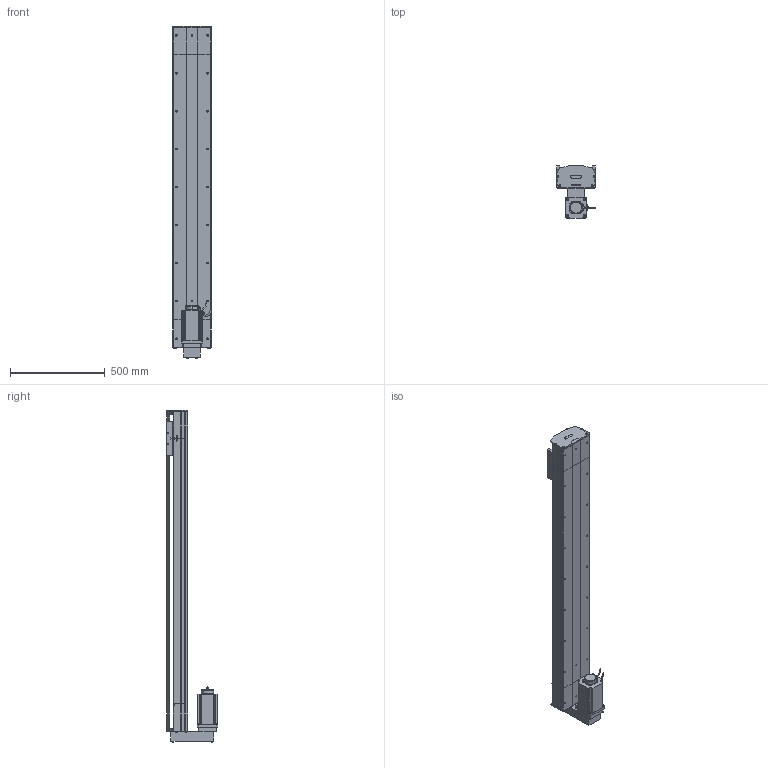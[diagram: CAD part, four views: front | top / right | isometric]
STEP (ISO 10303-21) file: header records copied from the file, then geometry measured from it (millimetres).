
FILE_DESCRIPTION (( 'STEP AP214' ), '1' );
FILE_NAME ('D20 TSH BM S1400.STEP', '2010-06-30T08:45:49', ( 'Conseil Régional Haute-Normandie' ), ( 'Conseil Régional Haute-Normandie' ), 'SwSTEP 2.0', 'SolidWorks 2010', '' );
FILE_SCHEMA (( 'AUTOMOTIVE_DESIGN' ));
Length unit declared in the file: millimetre
Products named in the file (35): couvercle D20 S1400_Default; plaque de  bout head BR D20_Default; guide D20; corps 110BLDC170A-630x; avant 110BLDC170A-630x; Arbre+rail head D20; Moteur motionking 110BLDC170A-640x; corpl head MD D20_Default; couvercle head l D20_Default; chariot D20S_Default; Plaque racord D20_Default; head BM D20_Default; Arbre+rail tail D20; codeur 110BLDC170A-630x; Conecteur2_Default; tete d''axe bas D20; corpl tail D20_Default; tete d''axe haut D20; tail D20 S_Default; vis M5 L70_Default; vis M8 L12_Default; clavette; renvoi  BM_Default; plaque de  bout tail D20_Default; vis M5 L25_Default; Conecteur_Default; Chariot D20; 2 vis M5 L12_Default; vis M5 L8 90°_Default; couvercle tail D20_Default; vis M5 L12_Default; rail + arbre  D20 S1400; corp D20 S1400_Default; course D20 L1400_Default; D20 TSH BM S1400
Assembly tree (59 placements, depth 4):
  D20 TSH BM S1400
    chariot D20S_Default
      guide D20  x2
      vis M5 L12_Default  x4
      Chariot D20
    course D20 L1400_Default
      rail + arbre  D20 S1400
      couvercle D20 S1400_Default
      corp D20 S1400_Default
    tail D20 S_Default
      2 vis M5 L12_Default  x4
      corpl tail D20_Default
      vis M5 L25_Default  x2
      tete d''axe bas D20
      Arbre+rail tail D20
      couvercle tail D20_Default
      plaque de  bout tail D20_Default
      tete d''axe haut D20
      vis M5 L8 90°_Default  x2
    head BM D20_Default
      vis M5 L70_Default  x4
      vis M5 L12_Default  x2
      vis M8 L12_Default  x4
      2 vis M5 L12_Default  x6
      Arbre+rail head D20
      renvoi  BM_Default
      Plaque racord D20_Default
      vis M5 L25_Default  x2
      couvercle head l D20_Default
      Moteur motionking 110BLDC170A-640x
        Conecteur_Default
        corps 110BLDC170A-630x
        Conecteur2_Default
        codeur 110BLDC170A-630x
        avant 110BLDC170A-630x
        clavette
      plaque de  bout head BR D20_Default
      corpl head MD D20_Default
Bounding box: 206 x 273.7 x 1751.7 mm (x, y, z)
Volume: 15908966.3 mm3; surface area: 3393088.9 mm2
Topology: 84 solids, 84 shells, 2360 faces, 5993 edges, 3873 vertices
Faces by surface type: plane 1388, cylinder 684, bspline 136, torus 77, cone 71, sphere 4
Entity records: 77786 total; most frequent: CARTESIAN_POINT 25688, ORIENTED_EDGE 9282, DIRECTION 8702, EDGE_CURVE 4641, VERTEX_POINT 3055, VECTOR 3020, LINE 3020, AXIS2_PLACEMENT_3D 2841
